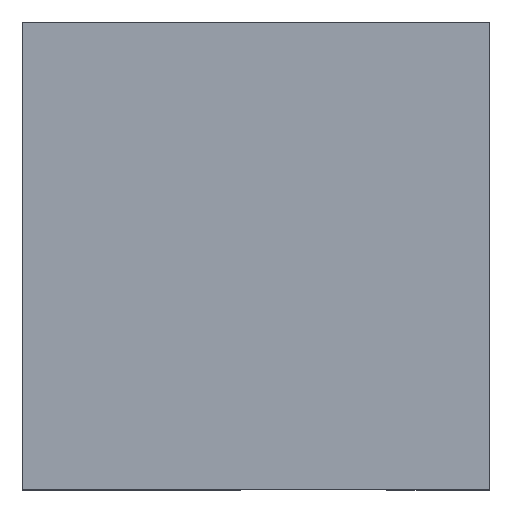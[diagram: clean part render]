
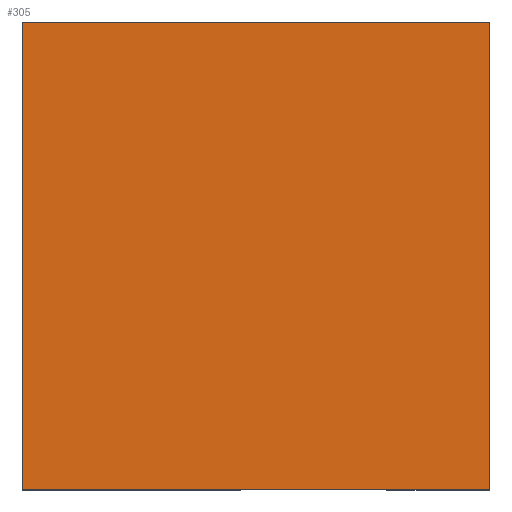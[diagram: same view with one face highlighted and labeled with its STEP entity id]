
A CAD part, top view. The second image highlights one B-rep face of the part: STEP entity #305.
In plain terms, the highlighted planar face has unit normal (0, 0, 1).
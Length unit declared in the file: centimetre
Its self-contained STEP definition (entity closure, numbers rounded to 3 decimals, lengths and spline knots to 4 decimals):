
#20 = EDGE_CURVE ( 'NONE', #463, #533, #581, .T. ) ;
#31 = LINE ( 'NONE', #430, #265 ) ;
#72 = CARTESIAN_POINT ( 'NONE',  ( 0., 1000., 1000. ) ) ;
#114 = CARTESIAN_POINT ( 'NONE',  ( 0., 0., 1000. ) ) ;
#126 = DIRECTION ( 'NONE',  ( 1., 0., 0. ) ) ;
#131 = CARTESIAN_POINT ( 'NONE',  ( 0., 1000., 1000. ) ) ;
#165 = EDGE_CURVE ( 'NONE', #509, #287, #442, .T. ) ;
#211 = ORIENTED_EDGE ( 'NONE', *, *, #165, .T. ) ;
#225 = FACE_OUTER_BOUND ( 'NONE', #281, .T. ) ;
#229 = ORIENTED_EDGE ( 'NONE', *, *, #247, .T. ) ;
#238 = VECTOR ( 'NONE', #346, 100. ) ;
#247 = EDGE_CURVE ( 'NONE', #287, #463, #351, .T. ) ;
#265 = VECTOR ( 'NONE', #563, 100. ) ;
#281 = EDGE_LOOP ( 'NONE', ( #307, #311, #211, #229 ) ) ;
#287 = VERTEX_POINT ( 'NONE', #447 ) ;
#289 = AXIS2_PLACEMENT_3D ( 'NONE', #114, #571, #126 ) ;
#290 = CARTESIAN_POINT ( 'NONE',  ( 0., 0., 1000. ) ) ;
#305 = ADVANCED_FACE ( 'NONE', ( #225 ), #520, .T. ) ;
#307 = ORIENTED_EDGE ( 'NONE', *, *, #20, .T. ) ;
#311 = ORIENTED_EDGE ( 'NONE', *, *, #329, .T. ) ;
#329 = EDGE_CURVE ( 'NONE', #533, #509, #31, .T. ) ;
#346 = DIRECTION ( 'NONE',  ( 0., 1., 0. ) ) ;
#351 = LINE ( 'NONE', #391, #491 ) ;
#387 = DIRECTION ( 'NONE',  ( -1., 0., 0. ) ) ;
#391 = CARTESIAN_POINT ( 'NONE',  ( 0., 1000., 1000. ) ) ;
#430 = CARTESIAN_POINT ( 'NONE',  ( 0., 0., 1000. ) ) ;
#441 = DIRECTION ( 'NONE',  ( 0., -1., 0. ) ) ;
#442 = LINE ( 'NONE', #483, #238 ) ;
#447 = CARTESIAN_POINT ( 'NONE',  ( 1000., 1000., 1000. ) ) ;
#462 = VECTOR ( 'NONE', #441, 100. ) ;
#463 = VERTEX_POINT ( 'NONE', #72 ) ;
#483 = CARTESIAN_POINT ( 'NONE',  ( 1000., 1000., 1000. ) ) ;
#491 = VECTOR ( 'NONE', #387, 100. ) ;
#509 = VERTEX_POINT ( 'NONE', #577 ) ;
#520 = PLANE ( 'NONE',  #289 ) ;
#533 = VERTEX_POINT ( 'NONE', #290 ) ;
#563 = DIRECTION ( 'NONE',  ( 1., 0., 0. ) ) ;
#571 = DIRECTION ( 'NONE',  ( 0., 0., 1. ) ) ;
#577 = CARTESIAN_POINT ( 'NONE',  ( 1000., 0., 1000. ) ) ;
#581 = LINE ( 'NONE', #131, #462 ) ;
